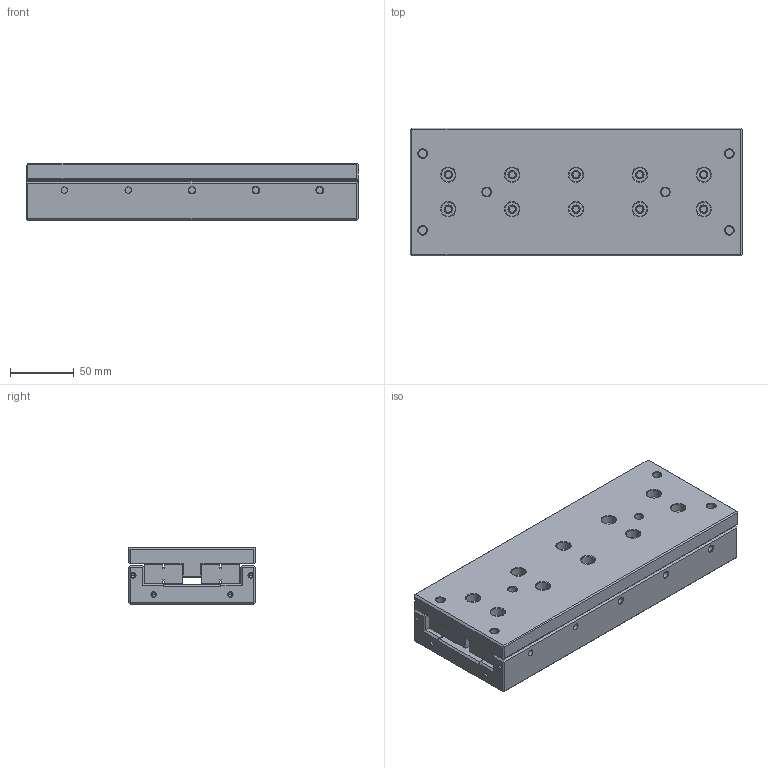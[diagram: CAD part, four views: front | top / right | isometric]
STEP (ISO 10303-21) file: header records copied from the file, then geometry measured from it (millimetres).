
FILE_DESCRIPTION((''),'2;1');
FILE_NAME('CRU6260_ASM','2017-01-24T',('Administrator'),(''),'PRO/ENGINEER BY PARAMETRIC TECHNOLOGY CORPORATION, 2013150','PRO/ENGINEER BY PARAMETRIC TECHNOLOGY CORPORATION, 2013150','');
FILE_SCHEMA(('CONFIG_CONTROL_DESIGN'));
Length unit declared in the file: millimetre
Products named in the file (4): CRU6260-01; CRU6260-GV6250; CRU6260-02; CRU6260_ASM
Assembly tree (4 placements, depth 2):
  CRU6260_ASM
    CRU6260-01
    CRU6260-GV6250  x2
    CRU6260-02
Bounding box: 260 x 100 x 45 mm (x, y, z)
Volume: 1058408.5 mm3; surface area: 217748.1 mm2
Topology: 4 solids, 4 shells, 575 faces, 1393 edges, 855 vertices
Faces by surface type: cylinder 234, cone 176, plane 165
Entity records: 14637 total; most frequent: DIRECTION 2720, CARTESIAN_POINT 2435, ORIENTED_EDGE 2362, EDGE_CURVE 1181, AXIS2_PLACEMENT_3D 1043, VERTEX_POINT 731, VECTOR 634, LINE 634
